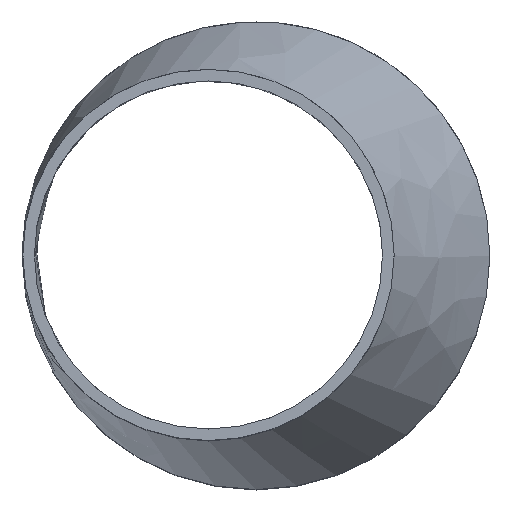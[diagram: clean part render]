
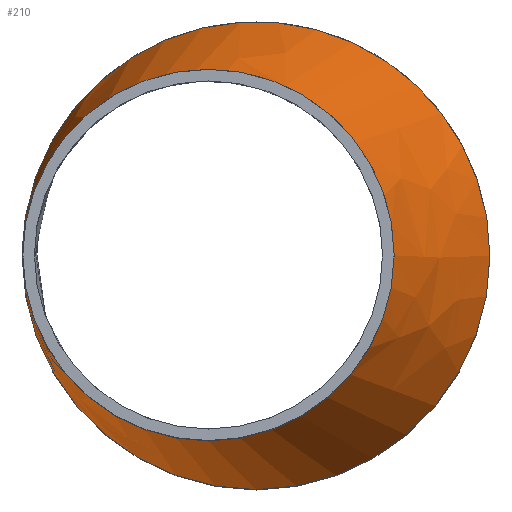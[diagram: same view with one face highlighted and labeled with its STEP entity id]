
A CAD part, top view. The second image highlights one B-rep face of the part: STEP entity #210.
In plain terms, the highlighted free-form (B-spline) face has degree [1, 2] with [2, 9] control points.
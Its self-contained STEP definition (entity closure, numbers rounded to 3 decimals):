
#15=B_SPLINE_CURVE_WITH_KNOTS($,1,(#401,#402),.UNSPECIFIED.,.F.,.F.,(2,
2),(-0.796,0.),.UNSPECIFIED.);
#17=(
BOUNDED_SURFACE()
B_SPLINE_SURFACE(1,2,((#379,#380,#381,#382,#383,#384,#385,#386,#387),(#388,
#389,#390,#391,#392,#393,#394,#395,#396)),.UNSPECIFIED.,.F.,.T.,.F.)
B_SPLINE_SURFACE_WITH_KNOTS((2,2),(3,2,2,2,3),(-0.274,0.989),
(-3.142,-1.571,0.,1.571,3.142),
 .UNSPECIFIED.)
GEOMETRIC_REPRESENTATION_ITEM()
RATIONAL_B_SPLINE_SURFACE(((1.,0.707,1.,0.707,1.,
0.707,1.,0.707,1.),(1.,0.707,1.,0.707,
1.,0.707,1.,0.707,1.)))
REPRESENTATION_ITEM($)
SURFACE()
);
#47=FACE_OUTER_BOUND($,#67,.T.);
#67=EDGE_LOOP($,(#167,#168,#169,#170,#171,#172));
#83=CIRCLE($,#231,157.5);
#84=CIRCLE($,#232,157.5);
#93=CIRCLE($,#243,125.);
#94=CIRCLE($,#244,125.);
#103=VERTEX_POINT($,#337);
#104=VERTEX_POINT($,#338);
#113=VERTEX_POINT($,#397);
#114=VERTEX_POINT($,#398);
#123=EDGE_CURVE($,#103,#104,#83,.T.);
#124=EDGE_CURVE($,#104,#103,#84,.T.);
#134=EDGE_CURVE($,#113,#114,#93,.T.);
#135=EDGE_CURVE($,#114,#113,#94,.T.);
#136=EDGE_CURVE($,#114,#104,#15,.T.);
#167=ORIENTED_EDGE($,*,*,#134,.F.);
#168=ORIENTED_EDGE($,*,*,#135,.F.);
#169=ORIENTED_EDGE($,*,*,#136,.T.);
#170=ORIENTED_EDGE($,*,*,#123,.F.);
#171=ORIENTED_EDGE($,*,*,#124,.F.);
#172=ORIENTED_EDGE($,*,*,#136,.F.);
#210=ADVANCED_FACE($,(#47),#17,.F.);
#231=AXIS2_PLACEMENT_3D($,#339,#278,#279);
#232=AXIS2_PLACEMENT_3D($,#340,#280,#281);
#243=AXIS2_PLACEMENT_3D($,#399,#302,#303);
#244=AXIS2_PLACEMENT_3D($,#400,#304,#305);
#278=DIRECTION('center_axis',(0.,0.,-1.));
#279=DIRECTION('ref_axis',(-1.,0.,0.));
#280=DIRECTION('center_axis',(0.,0.,-1.));
#281=DIRECTION('ref_axis',(-1.,0.,0.));
#302=DIRECTION('center_axis',(0.,0.,1.));
#303=DIRECTION('ref_axis',(-1.,0.,0.));
#304=DIRECTION('center_axis',(0.,0.,1.));
#305=DIRECTION('ref_axis',(-1.,0.,0.));
#337=CARTESIAN_POINT('',(157.5,0.,161.));
#338=CARTESIAN_POINT('',(-10.433,157.154,161.));
#339=CARTESIAN_POINT('Origin',(0.,0.,161.));
#340=CARTESIAN_POINT('Origin',(0.,0.,161.));
#379=CARTESIAN_POINT('Ctrl Pts',(-0.172,168.303,120.777));
#380=CARTESIAN_POINT('Ctrl Pts',(-157.844,168.303,80.554));
#381=CARTESIAN_POINT('Ctrl Pts',(-157.844,0.,
80.554));
#382=CARTESIAN_POINT('Ctrl Pts',(-157.844,-168.303,80.554));
#383=CARTESIAN_POINT('Ctrl Pts',(-0.172,-168.303,120.777));
#384=CARTESIAN_POINT('Ctrl Pts',(157.5,-168.303,161.));
#385=CARTESIAN_POINT('Ctrl Pts',(157.5,0.,161.));
#386=CARTESIAN_POINT('Ctrl Pts',(157.5,168.303,161.));
#387=CARTESIAN_POINT('Ctrl Pts',(-0.172,168.303,120.777));
#388=CARTESIAN_POINT('Ctrl Pts',(-47.536,116.842,306.442));
#389=CARTESIAN_POINT('Ctrl Pts',(-156.998,116.842,278.518));
#390=CARTESIAN_POINT('Ctrl Pts',(-156.998,0.,278.518));
#391=CARTESIAN_POINT('Ctrl Pts',(-156.998,-116.842,278.518));
#392=CARTESIAN_POINT('Ctrl Pts',(-47.536,-116.842,306.442));
#393=CARTESIAN_POINT('Ctrl Pts',(61.926,-116.842,334.366));
#394=CARTESIAN_POINT('Ctrl Pts',(61.926,0.,334.366));
#395=CARTESIAN_POINT('Ctrl Pts',(61.926,116.842,334.366));
#396=CARTESIAN_POINT('Ctrl Pts',(-47.536,116.842,306.442));
#397=CARTESIAN_POINT('',(93.,0.,278.));
#398=CARTESIAN_POINT('',(-40.28,124.725,278.));
#399=CARTESIAN_POINT('Origin',(-32.,0.,278.));
#400=CARTESIAN_POINT('Origin',(-32.,0.,278.));
#401=CARTESIAN_POINT('Ctrl Pts',(-40.28,124.725,278.));
#402=CARTESIAN_POINT('Ctrl Pts',(-10.433,157.154,161.));
